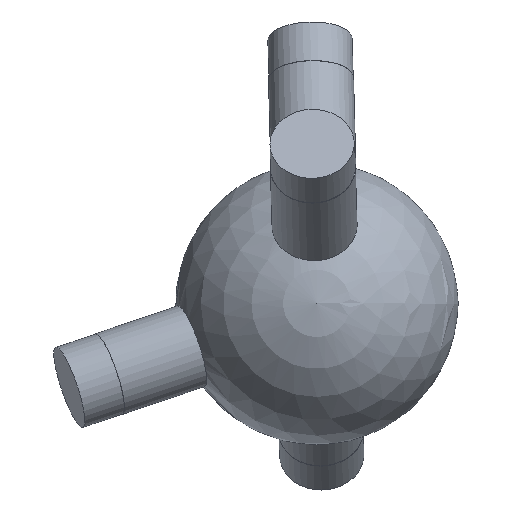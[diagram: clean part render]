
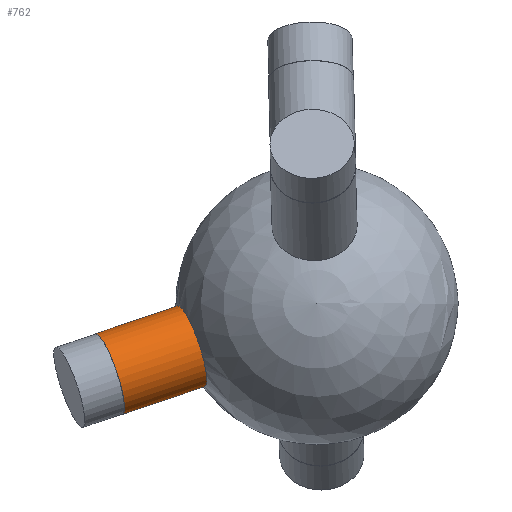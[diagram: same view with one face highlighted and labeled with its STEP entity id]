
A CAD part, top view. The second image highlights one B-rep face of the part: STEP entity #762.
In plain terms, the highlighted cylindrical face has radius 6 mm (diameter 12 mm), a full revolution.
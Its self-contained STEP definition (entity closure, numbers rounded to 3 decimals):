
#33 = SPHERICAL_SURFACE('',#34,20.);
#34 = AXIS2_PLACEMENT_3D('',#35,#36,#37);
#35 = CARTESIAN_POINT('',(0.,0.,0.));
#36 = DIRECTION('',(0.,0.,1.));
#37 = DIRECTION('',(1.,0.,-0.));
#458 = EDGE_CURVE('',#459,#459,#461,.T.);
#459 = VERTEX_POINT('',#460);
#460 = CARTESIAN_POINT('',(-15.815,-11.692,
    3.63));
#461 = SURFACE_CURVE('',#462,(#467,#529),.PCURVE_S1.);
#462 = CIRCLE('',#463,6.);
#463 = AXIS2_PLACEMENT_3D('',#464,#465,#466);
#464 = CARTESIAN_POINT('',(-17.74,-6.01,
    3.63));
#465 = DIRECTION('',(-0.93,-0.315,0.19));
#466 = DIRECTION('',(0.321,-0.947,0.));
#467 = PCURVE('',#33,#468);
#468 = DEFINITIONAL_REPRESENTATION('',(#469),#528);
#469 = B_SPLINE_CURVE_WITH_KNOTS('',8,(#470,#471,#472,#473,#474,#475,
    #476,#477,#478,#479,#480,#481,#482,#483,#484,#485,#486,#487,#488,
    #489,#490,#491,#492,#493,#494,#495,#496,#497,#498,#499,#500,#501,
    #502,#503,#504,#505,#506,#507,#508,#509,#510,#511,#512,#513,#514,
    #515,#516,#517,#518,#519,#520,#521,#522,#523,#524,#525,#526,#527),
  .UNSPECIFIED.,.F.,.F.,(9,7,7,7,7,7,7,7,9),(0.,0.785,
    1.473,2.074,3.126,3.915,
    4.507,5.395,6.283),.UNSPECIFIED.);
#470 = CARTESIAN_POINT('',(3.778,0.182));
#471 = CARTESIAN_POINT('',(3.78,0.212));
#472 = CARTESIAN_POINT('',(3.779,0.241));
#473 = CARTESIAN_POINT('',(3.774,0.271));
#474 = CARTESIAN_POINT('',(3.766,0.3));
#475 = CARTESIAN_POINT('',(3.754,0.327));
#476 = CARTESIAN_POINT('',(3.74,0.354));
#477 = CARTESIAN_POINT('',(3.722,0.378));
#478 = CARTESIAN_POINT('',(3.682,0.42));
#479 = CARTESIAN_POINT('',(3.662,0.437));
#480 = CARTESIAN_POINT('',(3.639,0.453));
#481 = CARTESIAN_POINT('',(3.614,0.467));
#482 = CARTESIAN_POINT('',(3.587,0.478));
#483 = CARTESIAN_POINT('',(3.559,0.486));
#484 = CARTESIAN_POINT('',(3.531,0.492));
#485 = CARTESIAN_POINT('',(3.476,0.497));
#486 = CARTESIAN_POINT('',(3.45,0.497));
#487 = CARTESIAN_POINT('',(3.425,0.495));
#488 = CARTESIAN_POINT('',(3.399,0.491));
#489 = CARTESIAN_POINT('',(3.374,0.485));
#490 = CARTESIAN_POINT('',(3.351,0.477));
#491 = CARTESIAN_POINT('',(3.328,0.467));
#492 = CARTESIAN_POINT('',(3.269,0.434));
#493 = CARTESIAN_POINT('',(3.236,0.408));
#494 = CARTESIAN_POINT('',(3.208,0.377));
#495 = CARTESIAN_POINT('',(3.186,0.342));
#496 = CARTESIAN_POINT('',(3.17,0.305));
#497 = CARTESIAN_POINT('',(3.16,0.266));
#498 = CARTESIAN_POINT('',(3.156,0.227));
#499 = CARTESIAN_POINT('',(3.159,0.158));
#500 = CARTESIAN_POINT('',(3.164,0.128));
#501 = CARTESIAN_POINT('',(3.171,0.099));
#502 = CARTESIAN_POINT('',(3.182,0.071));
#503 = CARTESIAN_POINT('',(3.196,0.045));
#504 = CARTESIAN_POINT('',(3.212,0.019));
#505 = CARTESIAN_POINT('',(3.231,-0.004));
#506 = CARTESIAN_POINT('',(3.268,-0.04));
#507 = CARTESIAN_POINT('',(3.285,-0.054));
#508 = CARTESIAN_POINT('',(3.303,-0.067));
#509 = CARTESIAN_POINT('',(3.322,-0.079));
#510 = CARTESIAN_POINT('',(3.342,-0.088));
#511 = CARTESIAN_POINT('',(3.363,-0.096));
#512 = CARTESIAN_POINT('',(3.385,-0.103));
#513 = CARTESIAN_POINT('',(3.44,-0.114));
#514 = CARTESIAN_POINT('',(3.473,-0.116));
#515 = CARTESIAN_POINT('',(3.507,-0.115));
#516 = CARTESIAN_POINT('',(3.541,-0.109));
#517 = CARTESIAN_POINT('',(3.573,-0.099));
#518 = CARTESIAN_POINT('',(3.604,-0.085));
#519 = CARTESIAN_POINT('',(3.633,-0.068));
#520 = CARTESIAN_POINT('',(3.685,-0.026));
#521 = CARTESIAN_POINT('',(3.709,-0.003));
#522 = CARTESIAN_POINT('',(3.729,0.024));
#523 = CARTESIAN_POINT('',(3.747,0.053));
#524 = CARTESIAN_POINT('',(3.76,0.084));
#525 = CARTESIAN_POINT('',(3.77,0.116));
#526 = CARTESIAN_POINT('',(3.776,0.149));
#527 = CARTESIAN_POINT('',(3.778,0.182));
#528 = ( GEOMETRIC_REPRESENTATION_CONTEXT(2) 
PARAMETRIC_REPRESENTATION_CONTEXT() REPRESENTATION_CONTEXT('2D SPACE',''
  ) );
#529 = PCURVE('',#530,#535);
#530 = CYLINDRICAL_SURFACE('',#531,6.);
#531 = AXIS2_PLACEMENT_3D('',#532,#533,#534);
#532 = CARTESIAN_POINT('',(0.,0.,0.));
#533 = DIRECTION('',(-0.93,-0.315,0.19));
#534 = DIRECTION('',(0.321,-0.947,0.));
#535 = DEFINITIONAL_REPRESENTATION('',(#536),#540);
#536 = LINE('',#537,#538);
#537 = CARTESIAN_POINT('',(0.,19.079));
#538 = VECTOR('',#539,1.);
#539 = DIRECTION('',(1.,0.));
#540 = ( GEOMETRIC_REPRESENTATION_CONTEXT(2) 
PARAMETRIC_REPRESENTATION_CONTEXT() REPRESENTATION_CONTEXT('2D SPACE',''
  ) );
#762 = ADVANCED_FACE('',(#763),#530,.T.);
#763 = FACE_BOUND('',#764,.T.);
#764 = EDGE_LOOP('',(#765,#788,#815,#816));
#765 = ORIENTED_EDGE('',*,*,#766,.T.);
#766 = EDGE_CURVE('',#459,#767,#769,.T.);
#767 = VERTEX_POINT('',#768);
#768 = CARTESIAN_POINT('',(-27.408,-15.62,
    6.002));
#769 = SEAM_CURVE('',#770,(#774,#781),.PCURVE_S1.);
#770 = LINE('',#771,#772);
#771 = CARTESIAN_POINT('',(1.925,-5.683,
    0.));
#772 = VECTOR('',#773,1.);
#773 = DIRECTION('',(-0.93,-0.315,0.19));
#774 = PCURVE('',#530,#775);
#775 = DEFINITIONAL_REPRESENTATION('',(#776),#780);
#776 = LINE('',#777,#778);
#777 = CARTESIAN_POINT('',(6.283,-0.));
#778 = VECTOR('',#779,1.);
#779 = DIRECTION('',(0.,1.));
#780 = ( GEOMETRIC_REPRESENTATION_CONTEXT(2) 
PARAMETRIC_REPRESENTATION_CONTEXT() REPRESENTATION_CONTEXT('2D SPACE',''
  ) );
#781 = PCURVE('',#530,#782);
#782 = DEFINITIONAL_REPRESENTATION('',(#783),#787);
#783 = LINE('',#784,#785);
#784 = CARTESIAN_POINT('',(0.,-0.));
#785 = VECTOR('',#786,1.);
#786 = DIRECTION('',(0.,1.));
#787 = ( GEOMETRIC_REPRESENTATION_CONTEXT(2) 
PARAMETRIC_REPRESENTATION_CONTEXT() REPRESENTATION_CONTEXT('2D SPACE',''
  ) );
#788 = ORIENTED_EDGE('',*,*,#789,.F.);
#789 = EDGE_CURVE('',#767,#767,#790,.T.);
#790 = SURFACE_CURVE('',#791,(#796,#803),.PCURVE_S1.);
#791 = CIRCLE('',#792,6.);
#792 = AXIS2_PLACEMENT_3D('',#793,#794,#795);
#793 = CARTESIAN_POINT('',(-29.334,-9.937,
    6.002));
#794 = DIRECTION('',(-0.93,-0.315,0.19));
#795 = DIRECTION('',(0.321,-0.947,0.));
#796 = PCURVE('',#530,#797);
#797 = DEFINITIONAL_REPRESENTATION('',(#798),#802);
#798 = LINE('',#799,#800);
#799 = CARTESIAN_POINT('',(0.,31.547));
#800 = VECTOR('',#801,1.);
#801 = DIRECTION('',(1.,0.));
#802 = ( GEOMETRIC_REPRESENTATION_CONTEXT(2) 
PARAMETRIC_REPRESENTATION_CONTEXT() REPRESENTATION_CONTEXT('2D SPACE',''
  ) );
#803 = PCURVE('',#804,#809);
#804 = PLANE('',#805);
#805 = AXIS2_PLACEMENT_3D('',#806,#807,#808);
#806 = CARTESIAN_POINT('',(-29.334,-9.937,
    6.002));
#807 = DIRECTION('',(-0.93,-0.315,0.19));
#808 = DIRECTION('',(0.321,-0.947,0.));
#809 = DEFINITIONAL_REPRESENTATION('',(#810),#814);
#810 = CIRCLE('',#811,6.);
#811 = AXIS2_PLACEMENT_2D('',#812,#813);
#812 = CARTESIAN_POINT('',(0.,0.));
#813 = DIRECTION('',(1.,0.));
#814 = ( GEOMETRIC_REPRESENTATION_CONTEXT(2) 
PARAMETRIC_REPRESENTATION_CONTEXT() REPRESENTATION_CONTEXT('2D SPACE',''
  ) );
#815 = ORIENTED_EDGE('',*,*,#766,.F.);
#816 = ORIENTED_EDGE('',*,*,#458,.T.);
